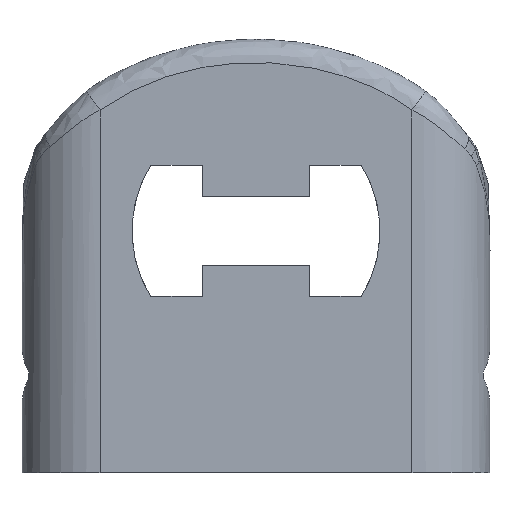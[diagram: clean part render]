
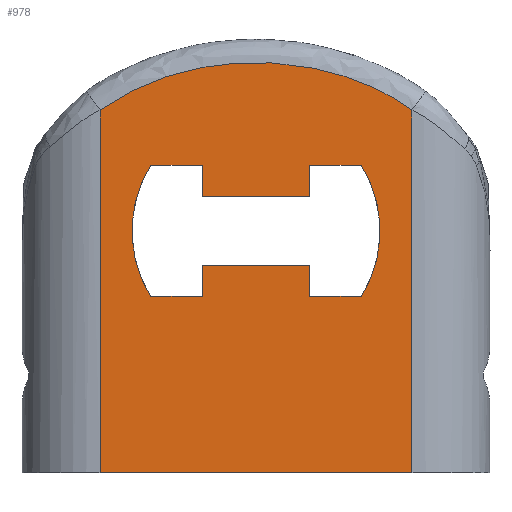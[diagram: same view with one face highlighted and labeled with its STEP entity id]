
A CAD part, left-side view. The second image highlights one B-rep face of the part: STEP entity #978.
In plain terms, the highlighted planar face has unit normal (-1, 0, 0).
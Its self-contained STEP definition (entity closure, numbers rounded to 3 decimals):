
#33=FACE_BOUND('',#248,.T.);
#34=LINE('',#3036,#92);
#35=LINE('',#3038,#93);
#36=LINE('',#3039,#94);
#37=LINE('',#3042,#95);
#38=LINE('',#3044,#96);
#39=LINE('',#3046,#97);
#40=LINE('',#3050,#98);
#41=LINE('',#3052,#99);
#42=LINE('',#3054,#100);
#43=LINE('',#3056,#101);
#44=LINE('',#3058,#102);
#45=LINE('',#3062,#103);
#46=LINE('',#3063,#104);
#92=VECTOR('',#1123,10.);
#93=VECTOR('',#1124,10.);
#94=VECTOR('',#1125,10.);
#95=VECTOR('',#1126,10.);
#96=VECTOR('',#1127,10.);
#97=VECTOR('',#1128,10.);
#98=VECTOR('',#1131,10.);
#99=VECTOR('',#1132,10.);
#100=VECTOR('',#1133,10.);
#101=VECTOR('',#1134,10.);
#102=VECTOR('',#1135,10.);
#103=VECTOR('',#1138,10.);
#104=VECTOR('',#1139,10.);
#150=PLANE('',#1041);
#192=FACE_OUTER_BOUND('',#247,.T.);
#247=EDGE_LOOP('',(#723,#724,#725,#726));
#248=EDGE_LOOP('',(#727,#728,#729,#730,#731,#732,#733,#734,#735,#736,#737,
#738));
#297=CIRCLE('',#1042,7.95);
#298=CIRCLE('',#1043,7.95);
#335=B_SPLINE_CURVE_WITH_KNOTS('',3,(#2538,#2539,#2540,#2541,#2542,#2543,
#2544,#2545),.UNSPECIFIED.,.F.,.F.,(4,1,1,1,1,4),(0.,0.303,
0.91,1.517,1.821,2.124),
 .UNSPECIFIED.);
#395=VERTEX_POINT('',#2421);
#399=VERTEX_POINT('',#2528);
#417=VERTEX_POINT('',#3035);
#418=VERTEX_POINT('',#3037);
#419=VERTEX_POINT('',#3040);
#420=VERTEX_POINT('',#3041);
#421=VERTEX_POINT('',#3043);
#422=VERTEX_POINT('',#3045);
#423=VERTEX_POINT('',#3047);
#424=VERTEX_POINT('',#3049);
#425=VERTEX_POINT('',#3051);
#426=VERTEX_POINT('',#3053);
#427=VERTEX_POINT('',#3055);
#428=VERTEX_POINT('',#3057);
#429=VERTEX_POINT('',#3059);
#430=VERTEX_POINT('',#3061);
#510=EDGE_CURVE('',#395,#399,#335,.T.);
#539=EDGE_CURVE('',#417,#395,#34,.T.);
#540=EDGE_CURVE('',#418,#417,#35,.T.);
#541=EDGE_CURVE('',#418,#399,#36,.T.);
#542=EDGE_CURVE('',#419,#420,#37,.T.);
#543=EDGE_CURVE('',#421,#419,#38,.T.);
#544=EDGE_CURVE('',#422,#421,#39,.T.);
#545=EDGE_CURVE('',#423,#422,#297,.T.);
#546=EDGE_CURVE('',#424,#423,#40,.T.);
#547=EDGE_CURVE('',#425,#424,#41,.T.);
#548=EDGE_CURVE('',#426,#425,#42,.T.);
#549=EDGE_CURVE('',#427,#426,#43,.T.);
#550=EDGE_CURVE('',#428,#427,#44,.T.);
#551=EDGE_CURVE('',#429,#428,#298,.T.);
#552=EDGE_CURVE('',#430,#429,#45,.T.);
#553=EDGE_CURVE('',#420,#430,#46,.T.);
#723=ORIENTED_EDGE('',*,*,#510,.F.);
#724=ORIENTED_EDGE('',*,*,#539,.F.);
#725=ORIENTED_EDGE('',*,*,#540,.F.);
#726=ORIENTED_EDGE('',*,*,#541,.T.);
#727=ORIENTED_EDGE('',*,*,#542,.F.);
#728=ORIENTED_EDGE('',*,*,#543,.F.);
#729=ORIENTED_EDGE('',*,*,#544,.F.);
#730=ORIENTED_EDGE('',*,*,#545,.F.);
#731=ORIENTED_EDGE('',*,*,#546,.F.);
#732=ORIENTED_EDGE('',*,*,#547,.F.);
#733=ORIENTED_EDGE('',*,*,#548,.F.);
#734=ORIENTED_EDGE('',*,*,#549,.F.);
#735=ORIENTED_EDGE('',*,*,#550,.F.);
#736=ORIENTED_EDGE('',*,*,#551,.F.);
#737=ORIENTED_EDGE('',*,*,#552,.F.);
#738=ORIENTED_EDGE('',*,*,#553,.F.);
#978=ADVANCED_FACE('',(#192,#33),#150,.F.);
#1041=AXIS2_PLACEMENT_3D('',#3034,#1121,#1122);
#1042=AXIS2_PLACEMENT_3D('',#3048,#1129,#1130);
#1043=AXIS2_PLACEMENT_3D('',#3060,#1136,#1137);
#1121=DIRECTION('center_axis',(1.,0.,0.));
#1122=DIRECTION('ref_axis',(0.,0.,-1.));
#1123=DIRECTION('',(0.,0.,1.));
#1124=DIRECTION('',(0.,1.,0.));
#1125=DIRECTION('',(0.,0.,1.));
#1126=DIRECTION('',(0.,-1.,0.));
#1127=DIRECTION('',(0.,0.,1.));
#1128=DIRECTION('',(0.,-1.,0.));
#1129=DIRECTION('center_axis',(-1.,0.,0.));
#1130=DIRECTION('ref_axis',(0.,-1.,0.));
#1131=DIRECTION('',(0.,1.,0.));
#1132=DIRECTION('',(0.,0.,1.));
#1133=DIRECTION('',(0.,1.,0.));
#1134=DIRECTION('',(0.,0.,-1.));
#1135=DIRECTION('',(0.,1.,0.));
#1136=DIRECTION('center_axis',(-1.,0.,0.));
#1137=DIRECTION('ref_axis',(0.,-1.,0.));
#1138=DIRECTION('',(0.,-1.,0.));
#1139=DIRECTION('',(0.,0.,-1.));
#2421=CARTESIAN_POINT('',(-44.,10.,11.755));
#2528=CARTESIAN_POINT('',(-44.,-10.,11.755));
#2538=CARTESIAN_POINT('Ctrl Pts',(-44.,10.,11.755));
#2539=CARTESIAN_POINT('Ctrl Pts',(-44.,9.182,12.35));
#2540=CARTESIAN_POINT('Ctrl Pts',(-44.,6.522,13.847));
#2541=CARTESIAN_POINT('Ctrl Pts',(-44.,1.54,15.06));
#2542=CARTESIAN_POINT('Ctrl Pts',(-44.,-3.566,14.657));
#2543=CARTESIAN_POINT('Ctrl Pts',(-44.,-7.41,13.349));
#2544=CARTESIAN_POINT('Ctrl Pts',(-44.,-9.182,12.35));
#2545=CARTESIAN_POINT('Ctrl Pts',(-44.,-10.,11.755));
#3034=CARTESIAN_POINT('Origin',(-44.,0.,1.46));
#3035=CARTESIAN_POINT('',(-44.,10.,-11.5));
#3036=CARTESIAN_POINT('',(-44.,10.,0.));
#3037=CARTESIAN_POINT('',(-44.,-10.,-11.5));
#3038=CARTESIAN_POINT('',(-44.,-15.,-11.5));
#3039=CARTESIAN_POINT('',(-44.,-10.,0.));
#3040=CARTESIAN_POINT('',(-44.,3.433,1.8));
#3041=CARTESIAN_POINT('',(-44.,-3.433,1.8));
#3042=CARTESIAN_POINT('',(-44.,-1.817,1.8));
#3043=CARTESIAN_POINT('',(-44.,3.433,-0.2));
#3044=CARTESIAN_POINT('',(-44.,3.433,1.73));
#3045=CARTESIAN_POINT('',(-44.,6.75,-0.2));
#3046=CARTESIAN_POINT('',(-44.,1.817,-0.2));
#3047=CARTESIAN_POINT('',(-44.,6.75,8.2));
#3048=CARTESIAN_POINT('Origin',(-44.,0.,4.));
#3049=CARTESIAN_POINT('',(-44.,3.433,8.2));
#3050=CARTESIAN_POINT('',(-44.,3.319,8.2));
#3051=CARTESIAN_POINT('',(-44.,3.433,6.2));
#3052=CARTESIAN_POINT('',(-44.,3.433,4.73));
#3053=CARTESIAN_POINT('',(-44.,-3.433,6.2));
#3054=CARTESIAN_POINT('',(-44.,1.817,6.2));
#3055=CARTESIAN_POINT('',(-44.,-3.433,8.2));
#3056=CARTESIAN_POINT('',(-44.,-3.433,3.73));
#3057=CARTESIAN_POINT('',(-44.,-6.75,8.2));
#3058=CARTESIAN_POINT('',(-44.,-1.817,8.2));
#3059=CARTESIAN_POINT('',(-44.,-6.75,-0.2));
#3060=CARTESIAN_POINT('Origin',(-44.,0.,4.));
#3061=CARTESIAN_POINT('',(-44.,-3.433,-0.2));
#3062=CARTESIAN_POINT('',(-44.,1.817,-0.2));
#3063=CARTESIAN_POINT('',(-44.,-3.433,0.73));
